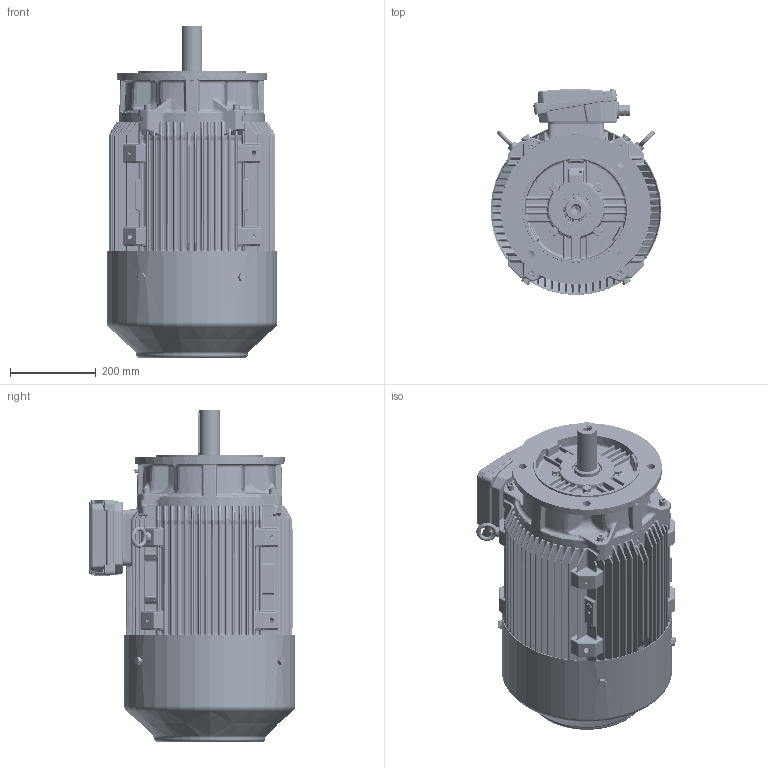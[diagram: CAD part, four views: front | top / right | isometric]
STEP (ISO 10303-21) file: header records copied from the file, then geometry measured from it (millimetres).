
FILE_DESCRIPTION (( 'STEP AP203' ), '1' );
FILE_NAME ('0218000515_RevA.STEP', '2023-04-27T06:22:18', ( '' ), ( '' ), 'SwSTEP 2.0', 'SolidWorks 2021', '' );
FILE_SCHEMA (( 'CONFIG_CONTROL_DESIGN' ));
Products named in the file (1): 0218000515_RevA
Bounding box: 399 x 481.21 x 775 mm (x, y, z)
Volume: 15275198 mm3; surface area: 3981660.8 mm2
Topology: 51 solids, 51 shells, 11032 faces, 27248 edges, 16121 vertices
Faces by surface type: bspline 3350, cylinder 3069, plane 2044, torus 1123, cone 1105, sphere 341
Entity records: 454544 total; most frequent: CARTESIAN_POINT 221302, ORIENTED_EDGE 53728, DIRECTION 43521, EDGE_CURVE 26864, AXIS2_PLACEMENT_3D 18278, VERTEX_POINT 16062, EDGE_LOOP 11694, FACE_OUTER_BOUND 11031
